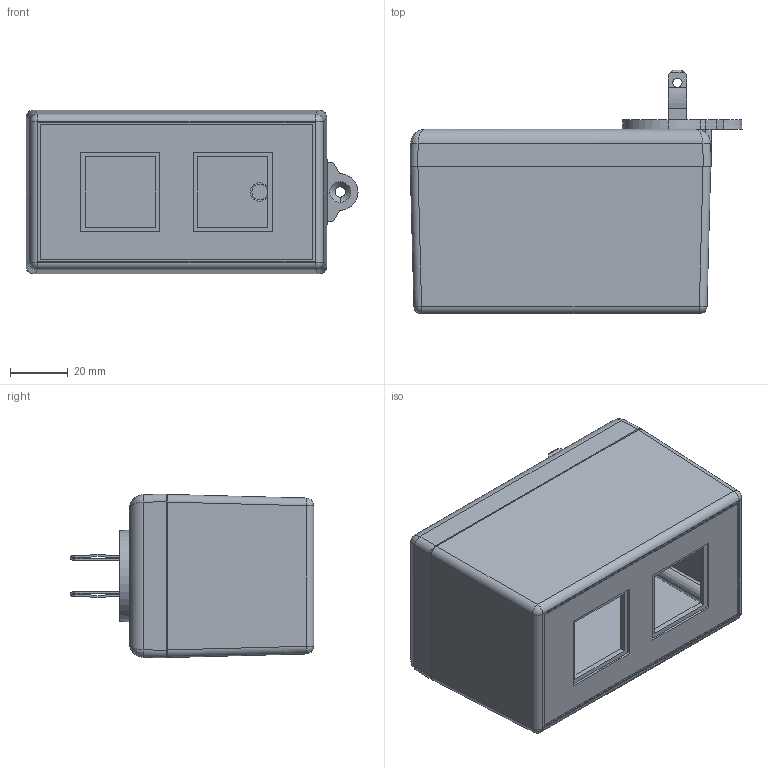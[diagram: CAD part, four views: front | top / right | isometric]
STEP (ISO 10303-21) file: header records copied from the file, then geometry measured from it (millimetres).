
FILE_DESCRIPTION (( 'STEP AP214' ), '1' );
FILE_NAME ('PM2425T22XWT.STEP', '2010-07-15T14:21:20', ( '' ), ( '' ), 'SwSTEP 2.0', 'SolidWorks 2010', '' );
FILE_SCHEMA (( 'AUTOMOTIVE_DESIGN' ));
Length unit declared in the file: inch
Products named in the file (8): TS-2420B AND PM2420_PM2420T2; B2405 ASS''Y_B24052XWT; MPB2405_MPB24052WT; BLADES; WELD DISC-PS-BK; SCREWS-HL1-BR; B2405-PCB; PM2425T22XWT
Assembly tree (11 placements, depth 3):
  PM2425T22XWT
    SCREWS-HL1-BR  x4
    B2405 ASS''Y_B24052XWT
      WELD DISC-PS-BK
      MPB2405_MPB24052WT
      BLADES  x2
    TS-2420B AND PM2420_PM2420T2
    B2405-PCB
Bounding box: 115.34 x 84.55 x 56.95 mm (x, y, z)
Volume: 86229.6 mm3; surface area: 80693.5 mm2
Topology: 10 solids, 10 shells, 906 faces, 2522 edges, 1646 vertices
Faces by surface type: cylinder 488, plane 292, cone 82, bspline 28, sphere 12, torus 4
Entity records: 19027 total; most frequent: CARTESIAN_POINT 6246, ORIENTED_EDGE 2758, DIRECTION 2459, EDGE_CURVE 1379, VERTEX_POINT 896, AXIS2_PLACEMENT_3D 856, LINE 747, VECTOR 747
